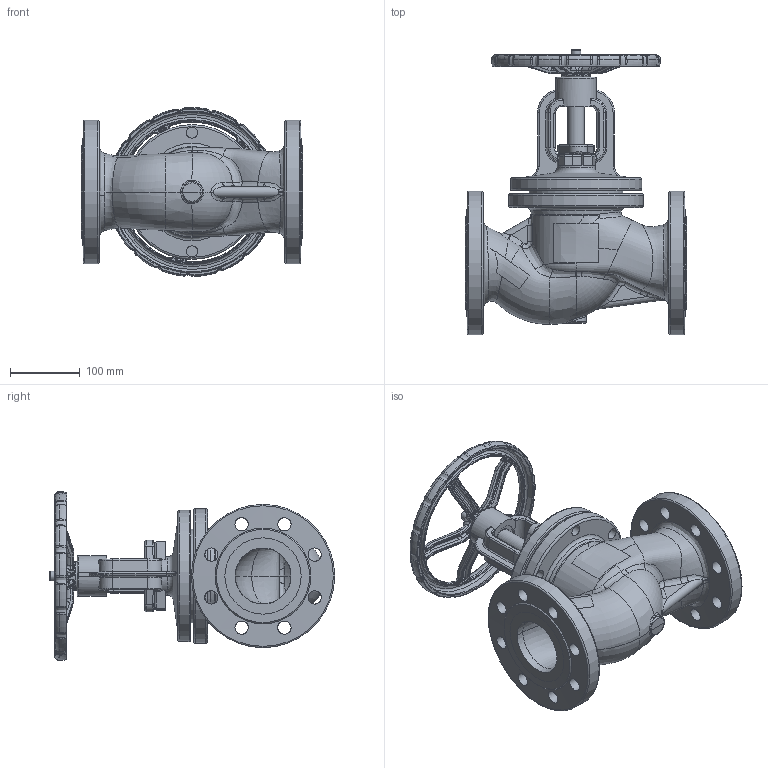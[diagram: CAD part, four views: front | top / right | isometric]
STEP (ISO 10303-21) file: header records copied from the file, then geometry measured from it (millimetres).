
FILE_DESCRIPTION(/* description */ ('STEP AP203'),/* implementation_level */ '2;1');
FILE_NAME(/* name */ '',/* time_stamp */ '2025-02-21T11:10:31+07:00',/* author */ ('Eva'),/* organization */ (''),/* preprocessor_version */ 'ST-DEVELOPER v20',/* originating_system */ 'Autodesk Inventor 2025',/* authorisation */ '');
FILE_SCHEMA (('AUTOMOTIVE_DESIGN { 1 0 10303 214 3 1 1 }'));
Length unit declared in the file: metre
Products named in the file (7): 截止阀80; 截止阀80阀盖; 德标截止阀杆螺母80; 德标截止压盖80; 德标截止80阀杆; 80; YD.T-612-240.03-Q-80手轮
Assembly tree (6 placements, depth 2):
  截止阀80
    截止阀80阀盖
    德标截止阀杆螺母80
    德标截止压盖80
    德标截止80阀杆
    80
    YD.T-612-240.03-Q-80手轮
Bounding box: 316.4 x 408.2 x 241.63 mm (x, y, z)
Volume: 3988341.7 mm3; surface area: 675787.7 mm2
Topology: 6 solids, 6 shells, 1600 faces, 3996 edges, 2382 vertices
Faces by surface type: bspline 744, plane 347, cylinder 274, torus 170, cone 57, sphere 8
Full cylindrical faces by diameter (mm): 14 x3, 16 x6, 17 x1, 19 x16, 22 x1, 24 x4, 24.8 x1, 26 x1, 36 x1, 38 x1, 39 x1, 50 x1, 72 x1, 83 x1, 105 x1, 107.6 x1, 134.5 x1, 188 x1, 192.9 x1, 205 x2
Entity records: 210694 total; most frequent: CARTESIAN_POINT 176989, ORIENTED_EDGE 7932, DIRECTION 5837, EDGE_CURVE 3966, VERTEX_POINT 2382, AXIS2_PLACEMENT_3D 2351, EDGE_LOOP 1678, FACE_OUTER_BOUND 1600
